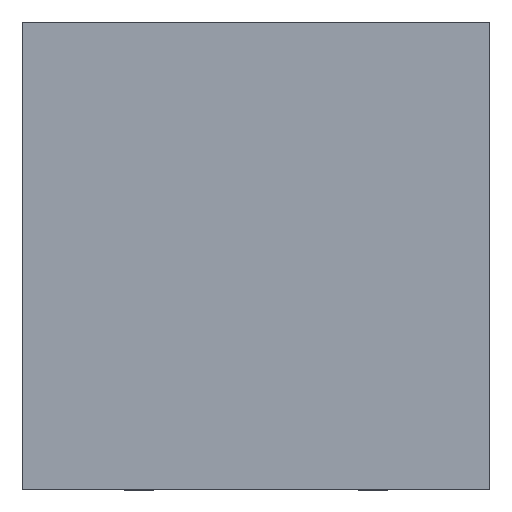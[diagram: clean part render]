
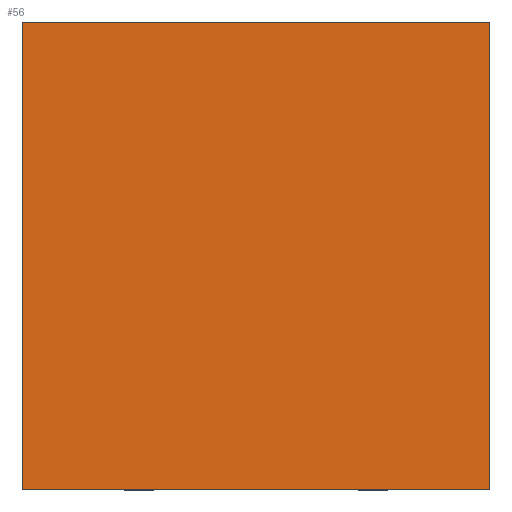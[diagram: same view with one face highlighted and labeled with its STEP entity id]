
A CAD part, top view. The second image highlights one B-rep face of the part: STEP entity #56.
In plain terms, the highlighted planar face has unit normal (0, 0, 1).
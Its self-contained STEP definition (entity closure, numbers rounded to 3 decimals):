
#40 = DIRECTION ( 'NONE',  ( -1., 0., 0. ) ) ;
#51 = CARTESIAN_POINT ( 'NONE',  ( -1.062, 4.41, 3.819 ) ) ;
#56 = ADVANCED_FACE ( 'Defeatured_0_10', ( #4041 ), #2082, .T. ) ;
#88 = DIRECTION ( 'NONE',  ( 0., 1., 0. ) ) ;
#153 = VECTOR ( 'NONE', #88, 1000. ) ;
#235 = EDGE_CURVE ( 'Defeatured_0_10+Defeatured_0_9+Defeatured_0_8+Defeatured_0_6', #2859, #420, #3791, .T. ) ;
#362 = VECTOR ( 'NONE', #40, 1000. ) ;
#420 = VERTEX_POINT ( 'NONE', #2330 ) ;
#425 = ORIENTED_EDGE ( 'NONE', *, *, #4044, .T. ) ;
#498 = ORIENTED_EDGE ( 'NONE', *, *, #1613, .T. ) ;
#777 = LINE ( 'NONE', #3375, #1022 ) ;
#894 = CARTESIAN_POINT ( 'NONE',  ( -1.062, 0.41, 3.819 ) ) ;
#961 = EDGE_LOOP ( 'NONE', ( #3591, #498, #425, #3335 ) ) ;
#981 = LINE ( 'NONE', #2283, #153 ) ;
#1022 = VECTOR ( 'NONE', #2396, 1000. ) ;
#1169 = VECTOR ( 'NONE', #2578, 1000. ) ;
#1435 = CARTESIAN_POINT ( 'NONE',  ( -1.062, 4.41, 3.819 ) ) ;
#1613 = EDGE_CURVE ( 'Defeatured_0_10+Defeatured_0_7+Defeatured_0_6+Defeatured_0_8', #2953, #3277, #2119, .T. ) ;
#1755 = DIRECTION ( 'NONE',  ( 0., 0., 1. ) ) ;
#1827 = EDGE_CURVE ( 'Defeatured_0_10+Defeatured_0_6+Defeatured_0_9+Defeatured_0_7', #420, #2953, #777, .T. ) ;
#2082 = PLANE ( 'NONE',  #3358 ) ;
#2119 = LINE ( 'NONE', #2590, #1169 ) ;
#2283 = CARTESIAN_POINT ( 'NONE',  ( 2.938, 4.41, 3.819 ) ) ;
#2330 = CARTESIAN_POINT ( 'NONE',  ( -1.062, 4.41, 3.819 ) ) ;
#2396 = DIRECTION ( 'NONE',  ( 0., -1., 0. ) ) ;
#2420 = DIRECTION ( 'NONE',  ( 1., 0., 0. ) ) ;
#2578 = DIRECTION ( 'NONE',  ( 1., 0., 0. ) ) ;
#2590 = CARTESIAN_POINT ( 'NONE',  ( -1.062, 0.41, 3.819 ) ) ;
#2859 = VERTEX_POINT ( 'NONE', #4075 ) ;
#2953 = VERTEX_POINT ( 'NONE', #894 ) ;
#2982 = CARTESIAN_POINT ( 'NONE',  ( 2.938, 0.41, 3.819 ) ) ;
#3277 = VERTEX_POINT ( 'NONE', #2982 ) ;
#3335 = ORIENTED_EDGE ( 'NONE', *, *, #235, .T. ) ;
#3358 = AXIS2_PLACEMENT_3D ( 'NONE', #1435, #1755, #2420 ) ;
#3375 = CARTESIAN_POINT ( 'NONE',  ( -1.062, 4.41, 3.819 ) ) ;
#3591 = ORIENTED_EDGE ( 'NONE', *, *, #1827, .T. ) ;
#3791 = LINE ( 'NONE', #51, #362 ) ;
#4041 = FACE_OUTER_BOUND ( 'NONE', #961, .T. ) ;
#4044 = EDGE_CURVE ( 'Defeatured_0_10+Defeatured_0_8+Defeatured_0_7+Defeatured_0_9', #3277, #2859, #981, .T. ) ;
#4075 = CARTESIAN_POINT ( 'NONE',  ( 2.938, 4.41, 3.819 ) ) ;
